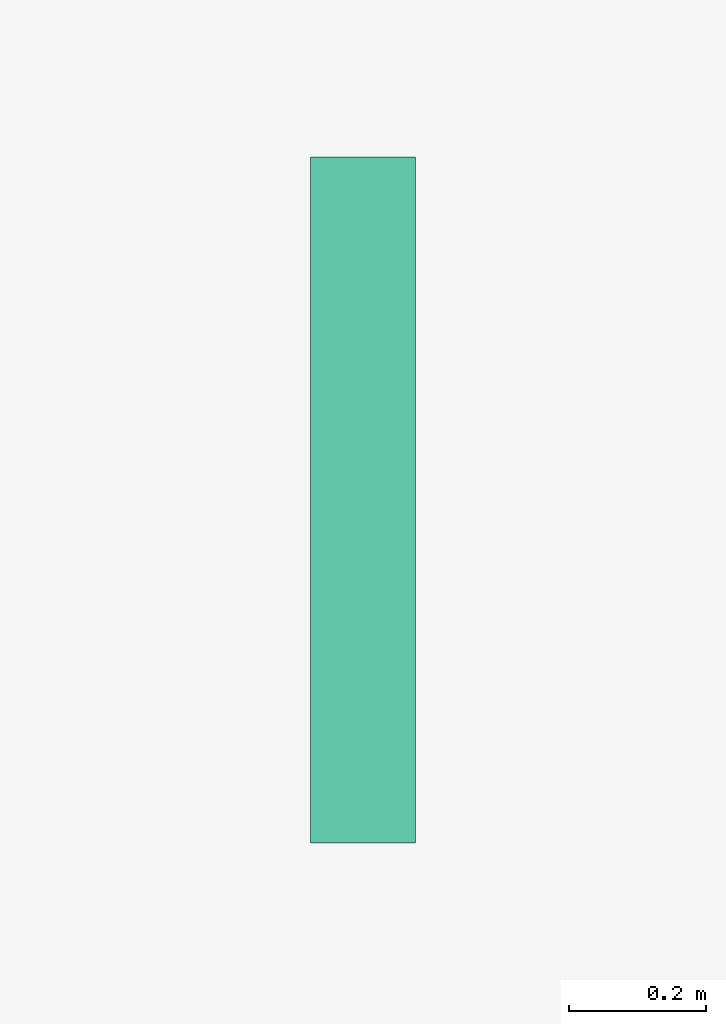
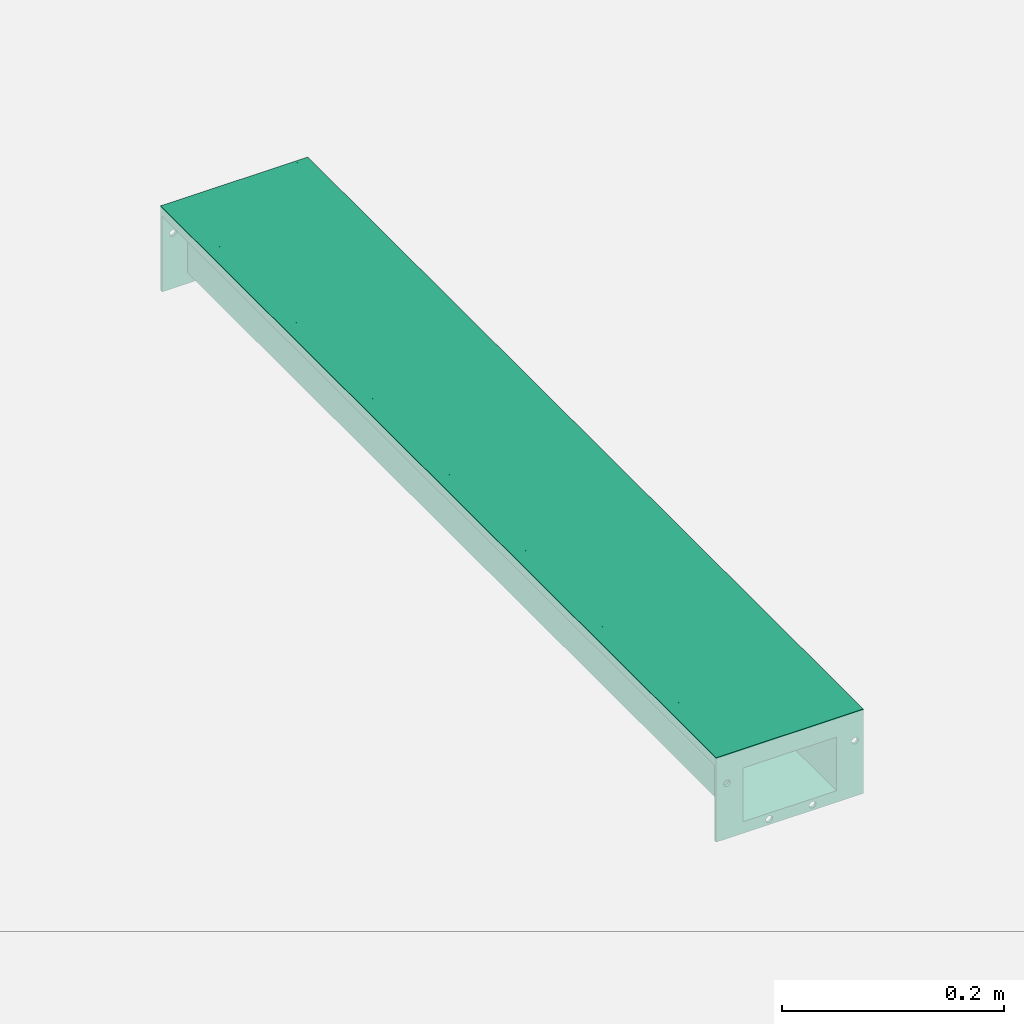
# One storey, part 2 of 2: 1 flow terminal.
"""IFC2X3 building model written with IfcOpenShell, lengths in millimetres."""

from ifc_helpers import new_model, entity, si_unit, converted_unit, direction, frame, frame_2d, origin, origin_2d_with_axis, place, context, subcontext, project, spatial, polyline, circle_curve, parameter, trimmed, segment, composite_curve, rectangle, outline, extrude, source, transform, mapped, material, material_list, element, save


model = new_model("IFC2X3")

# Units and contexts
model_context = context("Model", 3, precision=1e-06, world=origin(), true_north=direction((2.0, 6.12303176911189e-17, 1.0)))
context_of_model = context(None, 3, precision=1e-06, world=origin(), true_north=direction((2.0, 6.12303176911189e-17, 1.0)))
body_context = subcontext(model_context, "Body", "Model", "MODEL_VIEW")
ifc_project = project(units=[si_unit("LENGTHUNIT", "METRE", prefix="MILLI"), si_unit("AREAUNIT", "SQUARE_METRE", prefix="MILLI"), si_unit("VOLUMEUNIT", "CUBIC_METRE", prefix="MILLI"), converted_unit("PLANEANGLEUNIT", "DEGREE", entity("IfcRatioMeasure", 0.0174532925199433), si_unit("PLANEANGLEUNIT", "RADIAN"), dimensions=[0, 0, 0, 0, 0, 0, 0]), si_unit("TIMEUNIT", "SECOND")], contexts=[model_context, context_of_model])

# Site, building, storey
site_placement = place(None, origin())
site = spatial("IfcSite", under=ifc_project, at=site_placement, Name="Default", CompositionType="ELEMENT")
building_placement = place(site_placement, origin())
building = spatial("IfcBuilding", under=site, at=building_placement, CompositionType="ELEMENT")
storey_placement = place(building_placement, origin())
storey = spatial("IfcBuildingStorey", under=building, at=storey_placement, Name="Level 1", CompositionType="ELEMENT", Elevation=0.0)

# Flow terminal
ifc_material_1 = material(Name="Stainless Steel AISI 304")
ifc_material_2 = material(Name="Polystyrene, High Impact (F)")
ifc_material_list = material_list([ifc_material_1, ifc_material_2])
shared_shape = source(origin(), body_context, "Body", "SweptSolid", [
    extrude(rectangle(XDim=1000.0, YDim=124.999917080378, at=origin_2d_with_axis()), frame((4.14598109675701e-05, 500.0, -21.0), z_axis=(0.0, 0.0, 1.0), x_axis=(0.0, 1.0, 0.0)), (0.0, 0.0, 1.0), 20.9999999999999),
    extrude(outline(polyline([(-76.50002763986, -35.8000000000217), (-62.4999447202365, -35.8000000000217), (-62.4999447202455, -14.8000000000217), (-48.4999447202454, -14.8000000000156), (-48.4999447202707, 44.1999999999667), (48.4999723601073, 44.2000000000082), (48.4999723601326, -14.7999999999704), (62.4999723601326, -14.7999999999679), (62.4999723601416, -35.7999999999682), (76.4999723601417, -35.7999999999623), (76.499972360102, 57.0), (-76.5000276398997, 57.0), (-76.50002763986, -35.8000000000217)]), holes=[composite_curve([segment(trimmed(circle_curve(frame_2d((67.7349848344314, -3.90142745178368), x_axis=(1.0, 0.0)), 3.5), [parameter(0.0)], [parameter(180.0)], True, "PARAMETER"), False, "CONTINUOUS"), segment(trimmed(circle_curve(frame_2d((67.7349848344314, -3.90142745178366), x_axis=(1.0, 0.0)), 3.5), [parameter(180.0)], [parameter(360.0)], True, "PARAMETER"), False, "CONTINUOUS")], self_intersect=False), composite_curve([segment(trimmed(circle_curve(frame_2d((23.7349848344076, 50.9218749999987), x_axis=(1.0, 0.0)), 3.5), [parameter(0.0)], [parameter(180.0)], True, "PARAMETER"), False, "CONTINUOUS"), segment(trimmed(circle_curve(frame_2d((23.7349848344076, 50.9218749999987), x_axis=(1.0, 0.0)), 3.5), [parameter(180.0)], [parameter(0.0)], True, "PARAMETER"), False, "CONTINUOUS")], self_intersect=False), composite_curve([segment(trimmed(circle_curve(frame_2d((-21.2650151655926, 50.9218749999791), x_axis=(1.0, 0.0)), 3.5), [parameter(180.0)], [parameter(360.0)], True, "PARAMETER"), False, "CONTINUOUS"), segment(trimmed(circle_curve(frame_2d((-21.2650151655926, 50.9218749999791), x_axis=(1.0, 0.0)), 3.5), [parameter(360.0)], [parameter(180.0)], True, "PARAMETER"), False, "CONTINUOUS")], self_intersect=False), composite_curve([segment(trimmed(circle_curve(frame_2d((-65.2650151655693, -3.90142745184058), x_axis=(1.0, 0.0)), 3.5), [parameter(179.999999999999)], [parameter(360.0)], True, "PARAMETER"), False, "CONTINUOUS"), segment(trimmed(circle_curve(frame_2d((-65.2650151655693, -3.90142745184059), x_axis=(1.0, 0.0)), 3.5), [parameter(0.0)], [parameter(180.0)], True, "PARAMETER"), False, "CONTINUOUS")], self_intersect=False)]), frame((2.7639875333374e-05, 997.0, -35.8000000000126), z_axis=(0.0, 1.0, 0.0), x_axis=(1.0, 0.0, 0.0)), (0.0, 0.0, 1.0), 2.99999999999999),
    extrude(outline(polyline([(-76.4999585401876, -35.80000137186), (-62.4999585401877, -35.80000137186), (-62.4999585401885, -14.8000013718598), (-48.4999585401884, -14.8000013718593), (-48.4999585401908, 44.1999986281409), (48.4999585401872, 44.1999986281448), (48.4999585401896, -14.8000013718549), (62.4999585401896, -14.8000013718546), (62.4999585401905, -35.800001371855), (76.4999585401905, -35.8000013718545), (76.4999585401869, 57.0000068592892), (-76.4999585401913, 57.0000068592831), (-76.4999585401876, -35.80000137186)]), holes=[composite_curve([segment(trimmed(circle_curve(frame_2d((67.7349710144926, -3.90142882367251), x_axis=(1.0, 0.0)), 3.5), [parameter(0.0)], [parameter(180.0)], True, "PARAMETER"), False, "CONTINUOUS"), segment(trimmed(circle_curve(frame_2d((67.7349710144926, -3.90142882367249), x_axis=(1.0, 0.0)), 3.5), [parameter(180.0)], [parameter(360.0)], True, "PARAMETER"), False, "CONTINUOUS")], self_intersect=False), composite_curve([segment(trimmed(circle_curve(frame_2d((23.7349710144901, 50.9218818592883), x_axis=(1.0, 0.0)), 3.5), [parameter(0.0)], [parameter(180.0)], True, "PARAMETER"), False, "CONTINUOUS"), segment(trimmed(circle_curve(frame_2d((23.7349710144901, 50.9218818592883), x_axis=(1.0, 0.0)), 3.5), [parameter(180.0)], [parameter(359.999999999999)], True, "PARAMETER"), False, "CONTINUOUS")], self_intersect=False), composite_curve([segment(trimmed(circle_curve(frame_2d((-21.2650289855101, 50.9218818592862), x_axis=(1.0, 0.0)), 3.5), [parameter(180.0)], [parameter(360.0)], True, "PARAMETER"), False, "CONTINUOUS"), segment(trimmed(circle_curve(frame_2d((-21.2650289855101, 50.9218818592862), x_axis=(1.0, 0.0)), 3.5), [parameter(360.0)], [parameter(180.0)], True, "PARAMETER"), False, "CONTINUOUS")], self_intersect=False), composite_curve([segment(trimmed(circle_curve(frame_2d((-65.265028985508, -3.90142882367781), x_axis=(1.0, 0.0)), 3.5), [parameter(180.0)], [parameter(0.0)], True, "PARAMETER"), False, "CONTINUOUS"), segment(trimmed(circle_curve(frame_2d((-65.265028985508, -3.90142882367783), x_axis=(1.0, 0.0)), 3.5), [parameter(0.0)], [parameter(180.0)], True, "PARAMETER"), False, "CONTINUOUS")], self_intersect=False)]), frame((4.14598109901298e-05, 0.0, -35.8000013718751), z_axis=(0.0, 1.0, 0.0), x_axis=(1.0, 0.0, 0.0)), (0.0, 0.0, 1.0), 3.0),
    extrude(outline(polyline([(-22.6243423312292, -62.4999585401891), (-22.6243423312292, -76.499958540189), (-12.6243423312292, -76.499958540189), (-12.6243423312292, -74.999958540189), (-21.1243423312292, -74.999958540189), (-21.1243423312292, -63.9999585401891), (-0.124342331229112, -63.9999585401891), (-0.124342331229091, -49.999958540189), (58.8717116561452, -49.999958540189), (58.8717116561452, 49.999958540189), (-0.124342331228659, 49.999958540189), (-0.124342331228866, 63.999958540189), (-21.124342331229, 63.9999585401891), (-21.1243423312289, 74.9999585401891), (-12.6243423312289, 74.9999585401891), (-12.6243423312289, 76.4999585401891), (-22.6243423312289, 76.4999585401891), (-22.624342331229, 62.4999585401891), (-1.62434233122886, 62.499958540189), (-1.62434233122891, 48.499958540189), (57.3717116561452, 48.499958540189), (57.3717116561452, -48.499958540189), (-1.62434233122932, -48.499958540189), (-1.62434233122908, -62.4999585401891), (-22.6243423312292, -62.4999585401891)])), frame((4.14598110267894e-05, 3.0, -22.6282883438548), z_axis=(0.0, -1.0, 0.0), x_axis=(0.0, 0.0, -1.0)), (0.0, 0.0, -1.0), 994.0),
    extrude(rectangle(XDim=997.0, YDim=11.0, at=frame_2d((8.5265128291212e-14, 0.0), x_axis=(1.0, 0.0))), frame((69.5000000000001, 501.5, -10.0), z_axis=(0.0, 0.0, 1.0), x_axis=(0.0, 1.0, 0.0)), (0.0, 0.0, 1.0), 8.50000000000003),
    extrude(rectangle(XDim=997.0, YDim=10.9999999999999, at=frame_2d((8.5265128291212e-14, 0.0), x_axis=(1.0, 0.0))), frame((-69.499917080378, 501.5, -10.0), z_axis=(0.0, 0.0, 1.0), x_axis=(0.0, 1.0, 0.0)), (0.0, 0.0, 1.0), 8.50000000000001),
])
flow_terminal_placement = place(storey_placement, frame((-88.2515443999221, -389.522595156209, 0.0)))
element("IfcFlowTerminal", 1, at=flow_terminal_placement, inside=storey, material=ifc_material_list, Name="ACO BD Modular 125 Level Invert Straight Channels:105129 - Straight Channel - 1000mm LG - Invert Depth 80mm:105129 - Straight Channel - 1000mm LG - Invert Depth 80mm", ObjectType="105129 - Straight Channel - 1000mm LG - Invert Depth 80mm", context=body_context, shape_type="MappedRepresentation", body=[
    mapped(shared_shape, transform((0.0, 0.0, 0.0), scale=1.0)),
])

save(model, "model.ifc")
